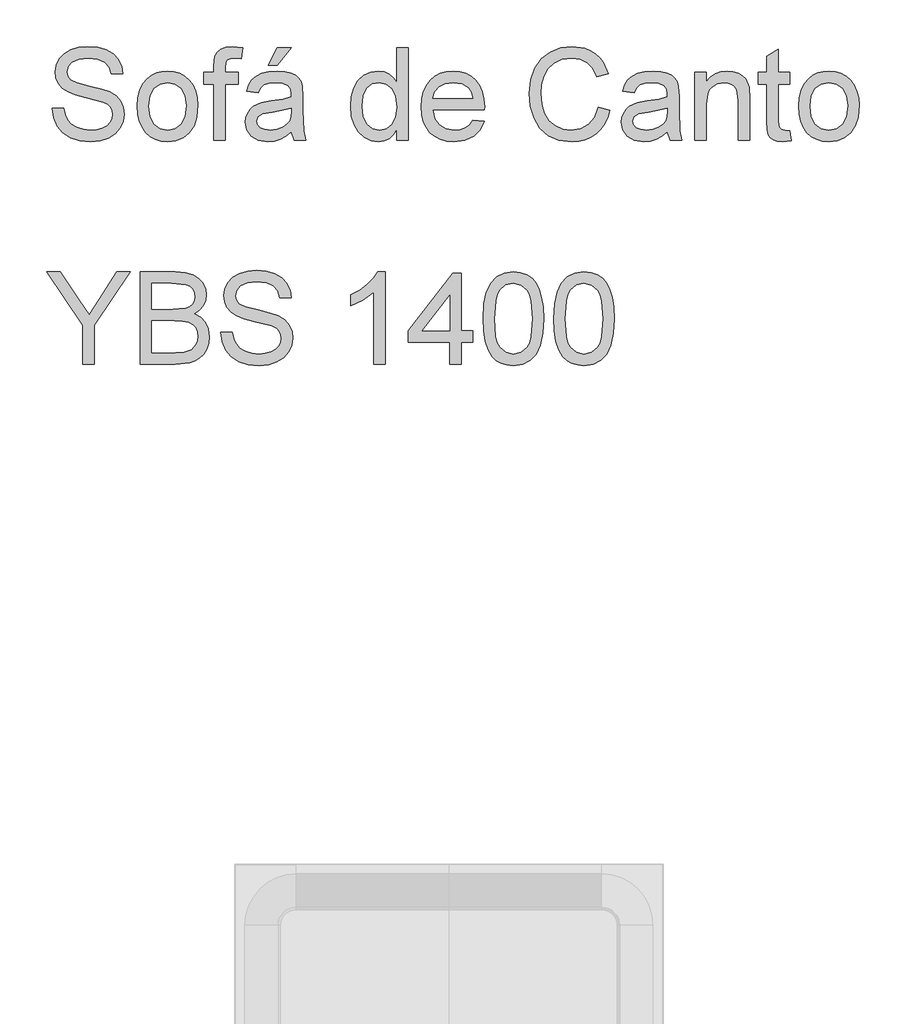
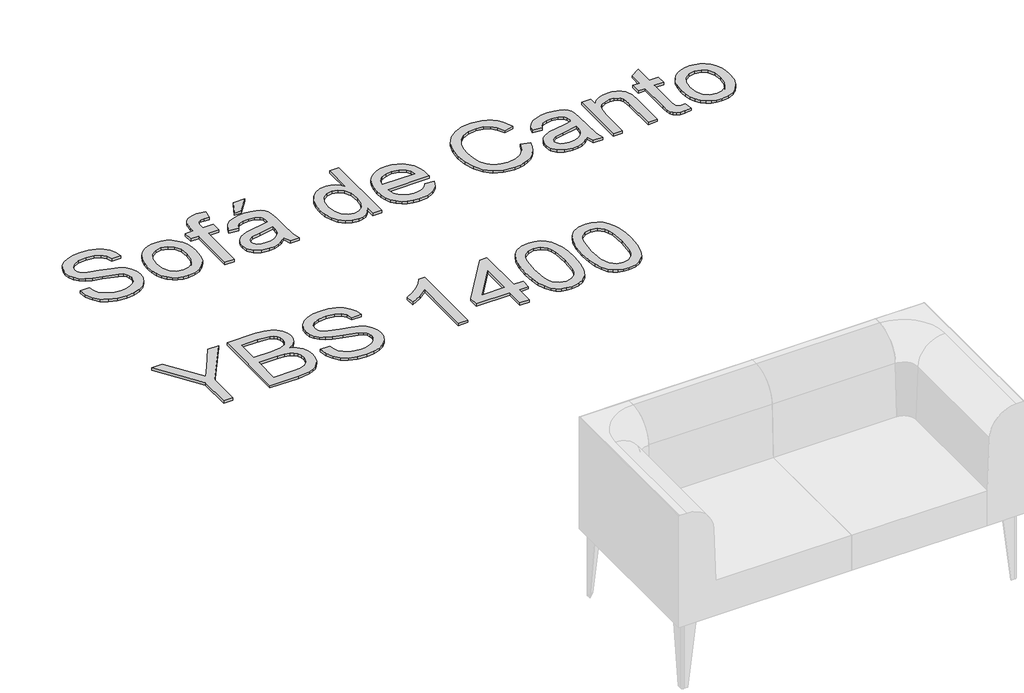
# One storey, part 20 of 26: 1 proxy.
"""IFC4 building model written with IfcOpenShell, lengths in millimetres."""

from ifc_helpers import new_model, si_unit, origin, origin_with_axes, place, context, project, spatial, polyline, outline, extrude, element, save

model = new_model("IFC4")

# Units and contexts
model_context = context("Model", 3, world=origin())
ifc_project = project(units=[si_unit("LENGTHUNIT", "METRE", prefix="MILLI")], contexts=[model_context])

# Site, building, storey
site = spatial("IfcSite", under=ifc_project)
building = spatial("IfcBuilding", under=site)
storey = spatial("IfcBuildingStorey", under=building, Name="Marelli - Linha YOUNG - Planta Baixa", Elevation=0.0)

# Proxy
placement = place(None, origin())
element("IfcBuildingElementProxy", 1, Name="300mm Arial", ObjectType="300mm Arial", at=placement, inside=storey, context=model_context, shape_type="SweptSolid", body=[
    extrude(outline(polyline([(34585.7785887, 188.9537033), (34623.449705, 188.9537033), (34627.7723184, 168.0488089), (34635.5898108, 151.2457988), (34647.7850989, 137.9100765), (34665.2410996, 127.4070455), (34686.5782553, 120.5920316), (34710.4170086, 118.3203602), (34731.4046764, 120.0402086), (34749.7803821, 125.1997535), (34764.6704059, 133.3667338), (34775.201028, 144.1088881), (34781.4642189, 156.442132), (34783.5519493, 169.3823812), (34781.9884508, 181.9915366), (34777.2979553, 192.8900407), (34767.7698117, 202.1882581), (34751.6933685, 209.9965534), (34696.842163, 224.3807394), (34660.8357127, 233.8996861), (34637.7971028, 242.9587802), (34619.0443181, 255.6323149), (34605.754581, 270.9913882), (34597.835921, 288.7049063), (34595.1963677, 308.4417753), (34598.4613204, 330.505498), (34608.2561786, 351.0792986), (34624.3234247, 368.5169052), (34646.4055415, 381.1720458), (34672.9114392, 388.8699765), (34702.2500283, 391.4359535), (34734.0350327, 388.7504149), (34761.8469115, 380.6937992), (34784.6923834, 367.4316533), (34801.578167, 349.129524), (34812.265139, 326.9278456), (34816.514176, 301.9670522), (34778.8430597, 301.9670522), (34771.9268782, 324.4446421), (34757.505904, 340.6682381), (34734.9731318, 350.4906874), (34703.7215563, 353.7648371), (34671.7342168, 350.5274756), (34649.7900558, 340.8153909), (34637.098127, 326.5231754), (34632.867484, 309.5454213), (34635.8657223, 295.0692648), (34644.8604371, 283.4257997), (34666.1240164, 273.0147392), (34706.3703067, 262.3829495), (34747.9041839, 252.2845888), (34773.0305242, 243.473815), (34794.5056357, 229.8069989), (34809.4876299, 212.9396094), (34818.2892067, 193.0555876), (34821.2230656, 170.3388744), (34817.8477483, 147.1163234), (34807.7217963, 125.2733299), (34791.2590771, 106.47456), (34768.8734577, 92.3846796), (34741.9536927, 83.5831028), (34711.8885366, 80.6492439), (34674.9807754, 83.8130291), (34644.6029197, 93.3043846), (34620.4054814, 109.1600986), (34602.0389728, 131.4169593), (34590.2483549, 158.5298623), (34585.7785887, 188.9537033)])), origin_with_axes(), (0.0, 0.0, 1.0), 10.0),
    extrude(outline(polyline([(34863.6030714, 196.0170376), (34865.640218, 224.6796436), (34871.7516576, 249.378321), (34881.9373903, 270.11307), (34896.1974162, 286.8838904), (34910.554011, 297.6030521), (34926.400528, 305.2595961), (34943.736967, 309.8535225), (34962.5633281, 311.3848313), (34983.3463616, 309.5201294), (35002.1382337, 303.9260239), (35018.9389446, 294.6025145), (35033.7484942, 281.5496015), (35045.835717, 265.2087431), (35054.4694476, 246.0213978), (35059.6496859, 223.9875656), (35061.376432, 199.1072464), (35058.3230115, 161.049854), (35049.1627498, 132.0791469), (35034.1623614, 110.3833062), (35013.5885608, 94.1505132), (34989.1519993, 84.0245612), (34962.5633281, 80.6492439), (34941.476792, 82.507048), (34922.5101759, 88.0804602), (34905.6634798, 97.3694806), (34890.9367037, 110.3741091), (34878.9782395, 126.8736166), (34870.4364795, 146.6472739), (34865.3114234, 169.6950809), (34863.6030714, 196.0170376)]), holes=[polyline([(34901.2741877, 196.090614), (34905.6335894, 161.9971501), (34918.7117943, 137.7077414), (34938.393481, 123.1672055), (34962.5633281, 118.3203602), (34986.6228106, 123.1947967), (35006.2677091, 137.818106), (35019.3459141, 162.4294115), (35023.7053157, 197.2678364), (35019.3183229, 230.3680189), (35006.1573445, 254.3263339), (34986.4848548, 268.8668697), (34962.5633281, 273.713715), (34938.393481, 268.8852638), (34918.7117943, 254.3999103), (34905.6335894, 230.1656838), (34901.2741877, 196.090614)])]), origin_with_axes(), (0.0, 0.0, 1.0), 10.0),
    extrude(outline(polyline([(35113.1742169, 85.3581335), (35113.1742169, 269.0048255), (35080.2119902, 269.0048255), (35080.2119902, 306.6759418), (35113.1742169, 306.6759418), (35113.1742169, 328.9695907), (35117.1473425, 360.3867131), (35124.7257116, 372.913095), (35136.424359, 382.8275148), (35152.7951078, 389.2838438), (35174.3897809, 391.4359535), (35208.7499593, 387.3156751), (35203.2317294, 351.9990036), (35181.5266916, 353.7648371), (35167.206885, 352.2013387), (35157.798303, 347.5108432), (35152.5835757, 338.5529166), (35150.8453332, 324.1871247), (35150.8453332, 306.6759418), (35193.2253391, 306.6759418), (35193.2253391, 269.0048255), (35150.8453332, 269.0048255), (35150.8453332, 85.3581335), (35113.1742169, 85.3581335)])), origin_with_axes(), (0.0, 0.0, 1.0), 10.0),
    extrude(outline(polyline([(35367.454252, 113.6114707), (35349.4556254, 98.178821), (35330.9235699, 88.0804602), (35311.4350212, 82.507048), (35290.566915, 80.6492439), (35259.0854133, 85.1190102), (35235.8628623, 98.5283089), (35221.5430557, 118.8905773), (35216.7697868, 144.2192527), (35218.5724086, 159.8358434), (35223.9802739, 174.0176943), (35232.3219981, 186.1578001), (35242.9261966, 195.6491556), (35269.3033357, 208.0099907), (35301.8976805, 213.6753734), (35340.4149254, 219.6350617), (35367.2335228, 226.6248196), (35367.454252, 235.0125291), (35364.8606839, 251.8247363), (35357.0799797, 262.8244079), (35339.6791614, 270.9913882), (35315.4357379, 273.713715), (35292.9949362, 271.9018962), (35277.3231632, 266.4664397), (35266.6361912, 256.4140642), (35259.1497926, 240.7514882), (35221.4786763, 245.4603778), (35228.0177788, 266.0617695), (35237.7758487, 282.2485773), (35251.663394, 294.6278064), (35270.5909227, 303.8064622), (35293.7398972, 309.490239), (35320.2917802, 311.3848313), (35345.7584113, 309.7109682), (35365.9459358, 304.689379), (35381.1670534, 297.138601), (35391.7344637, 287.8771718), (35398.7426157, 276.4268447), (35403.2859583, 262.3093731), (35405.1253683, 229.3471464), (35405.1253683, 182.4789802), (35407.0383547, 117.0327733), (35414.5431474, 85.3581335), (35376.8720311, 85.3581335), (35367.454252, 113.6114707)]), holes=[polyline([(35367.454252, 188.9537033), (35306.6801464, 177.4022087), (35274.2697426, 171.2953675), (35259.591251, 161.3625537), (35254.4409031, 146.8680031), (35257.2460033, 135.6659963), (35265.6613039, 126.4873405), (35279.502864, 120.3621053), (35298.5867425, 118.3203602), (35318.8202522, 120.5736375), (35336.6993172, 127.3334691), (35351.1938678, 137.2938741), (35361.2738345, 149.1488714), (35365.7436007, 161.3625537), (35367.2335228, 178.2851254), (35367.454252, 188.9537033)])]), origin_with_axes(), (0.0, 0.0, 1.0), 10.0),
    extrude(outline(polyline([(35292.1120194, 330.2203895), (35320.3653566, 386.7270639), (35367.454252, 386.7270639), (35320.3653566, 330.2203895), (35292.1120194, 330.2203895)])), origin_with_axes(), (0.0, 0.0, 1.0), 10.0),
    extrude(outline(polyline([(35711.2031883, 85.3581335), (35711.2031883, 120.8955342), (35699.9322037, 103.2877822), (35686.2791831, 90.7108165), (35670.2441267, 83.1646371), (35651.8270343, 80.6492439), (35627.4732462, 84.2912757), (35605.1795973, 95.2173709), (35586.3072509, 112.6641746), (35572.2173705, 135.8683314), (35563.4433849, 163.8917424), (35560.5187231, 195.7963084), (35563.2134587, 227.3054013), (35571.2976655, 255.7610736), (35584.7621466, 279.5446446), (35603.5977047, 297.0374335), (35626.3787973, 307.7979819), (35651.6798815, 311.3848313), (35670.1107694, 308.8188544), (35686.4079418, 301.1209236), (35700.2219107, 289.3211086), (35711.2031883, 274.449479), (35711.2031883, 386.7270639), (35748.8743046, 386.7270639), (35748.8743046, 85.3581335), (35711.2031883, 85.3581335)]), holes=[polyline([(35598.1898394, 195.9434612), (35602.4388764, 161.8683914), (35615.1859876, 137.634165), (35633.708846, 123.1488114), (35655.285125, 118.3203602), (35676.852207, 122.9280822), (35694.9060159, 136.7512482), (35707.1288952, 160.0473755), (35711.2031883, 193.0739817), (35707.0553188, 229.1815995), (35694.6117103, 254.2159693), (35676.0980489, 268.8392786), (35653.7400207, 273.713715), (35631.9430124, 269.0324166), (35614.0823416, 254.9885214), (35602.1629649, 230.8646596), (35598.1898394, 195.9434612)])]), origin_with_axes(), (0.0, 0.0, 1.0), 10.0),
    extrude(outline(polyline([(35960.3328754, 151.282587), (35997.2682277, 146.5736975), (35983.9600966, 118.7434245), (35962.7241084, 97.9396977), (35934.0385098, 84.9718574), (35898.3815474, 80.6492439), (35875.0072452, 82.5139458), (35854.1805257, 88.1080514), (35835.9013891, 97.4315607), (35820.1698353, 110.4844737), (35807.5192932, 126.903507), (35798.4831917, 146.3253771), (35793.0615307, 168.750084), (35791.2543104, 194.1776276), (35793.0799248, 220.4673947), (35798.5567681, 243.6393619), (35807.6848401, 263.6935292), (35820.4641409, 280.6298965), (35836.154308, 294.0851805), (35854.0149788, 303.6960976), (35874.0461535, 309.4626479), (35896.2478319, 311.3848313), (35917.7344397, 309.4672464), (35937.1655068, 303.7144917), (35954.5410333, 294.1265672), (35969.8610191, 280.7034729), (35982.3667077, 263.8038938), (35991.2993424, 243.7865147), (35996.6589232, 220.6513357), (35998.4454501, 194.3983568), (35998.2247209, 184.2448138), (35828.9254268, 184.2448138), (35835.4461351, 156.0466588), (35850.5936763, 135.3165084), (35872.4550638, 122.5693973), (35899.1173114, 118.3203602), (35919.1668802, 120.2885289), (35936.0526637, 126.1930349), (35949.7746622, 136.4017603), (35960.3328754, 151.282587)]), holes=[polyline([(35828.9254268, 221.9159301), (35960.7743338, 221.9159301), (35955.6791682, 241.818346), (35945.691172, 256.0553792), (35923.7286169, 269.2991311), (35896.1006791, 273.713715), (35870.7076244, 270.1912449), (35849.7107595, 259.6238346), (35835.1150413, 243.1519182), (35828.9254268, 221.9159301)])]), origin_with_axes(), (0.0, 0.0, 1.0), 10.0),
    extrude(outline(polyline([(36370.4477237, 192.4853705), (36408.11884, 182.7732858), (36400.664631, 159.3461005), (36390.7364157, 138.8757667), (36378.3341939, 121.3622845), (36363.4579657, 106.8056538), (36346.4434235, 95.3622245), (36327.6262594, 87.1883464), (36307.0064736, 82.2840195), (36284.584066, 80.6492439), (36240.888882, 85.5972568), (36206.1884128, 100.4412953), (36179.5905446, 124.6663247), (36160.2031634, 157.7573101), (36148.3665602, 196.6608311), (36144.4210258, 238.3234671), (36148.881595, 282.2669714), (36162.2633026, 320.2139992), (36183.8671728, 350.9597369), (36212.9942297, 373.2993711), (36247.5383491, 386.9018079), (36285.3934064, 391.4359535), (36326.6973574, 385.5682356), (36344.6660936, 378.2335884), (36360.8460036, 367.9650822), (36374.9703729, 355.03403), (36386.7724872, 339.7117449), (36403.4099504, 301.8934758), (36365.7388341, 292.9171551), (36352.6790233, 320.3887431), (36334.8367465, 339.2334983), (36311.9912746, 350.1320024), (36283.9218784, 353.7648371), (36251.5666569, 349.7365293), (36224.9871828, 337.6516058), (36204.8180524, 318.7792594), (36191.6938622, 294.3886831), (36184.4925721, 266.8159276), (36182.0921421, 238.3970435), (36184.9340305, 203.5954067), (36193.4596958, 173.5026595), (36207.9910346, 149.2684331), (36228.8499437, 132.0423587), (36253.8567223, 121.7508598), (36280.8316696, 118.3203602), (36312.2763832, 122.9924616), (36338.4787783, 137.0087656), (36358.2616326, 160.2221195), (36370.4477237, 192.4853705)])), origin_with_axes(), (0.0, 0.0, 1.0), 10.0),
    extrude(outline(polyline([(36596.4744215, 113.6114707), (36578.4757949, 98.178821), (36559.9437394, 88.0804602), (36540.4551907, 82.507048), (36519.5870845, 80.6492439), (36488.1055828, 85.1190102), (36464.8830318, 98.5283089), (36450.5632252, 118.8905773), (36445.7899563, 144.2192527), (36447.592578, 159.8358434), (36453.0004434, 174.0176943), (36461.3421676, 186.1578001), (36471.9463661, 195.6491556), (36498.3235052, 208.0099907), (36530.91785, 213.6753734), (36569.4350948, 219.6350617), (36596.2536923, 226.6248196), (36596.4744215, 235.0125291), (36593.8808534, 251.8247363), (36586.1001492, 262.8244079), (36568.6993309, 270.9913882), (36544.4559074, 273.713715), (36522.0151057, 271.9018962), (36506.3433327, 266.4664397), (36495.6563607, 256.4140642), (36488.1699621, 240.7514882), (36450.4988458, 245.4603778), (36457.0379483, 266.0617695), (36466.7960182, 282.2485773), (36480.6835635, 294.6278064), (36499.6110922, 303.8064622), (36522.7600667, 309.490239), (36549.3119497, 311.3848313), (36574.7785808, 309.7109682), (36594.9661053, 304.689379), (36610.1872229, 297.138601), (36620.7546332, 287.8771718), (36627.7627852, 276.4268447), (36632.3061278, 262.3093731), (36634.1455378, 229.3471464), (36634.1455378, 182.4789802), (36636.0585242, 117.0327733), (36643.5633169, 85.3581335), (36605.8922006, 85.3581335), (36596.4744215, 113.6114707)]), holes=[polyline([(36596.4744215, 188.9537033), (36535.7003159, 177.4022087), (36503.2899121, 171.2953675), (36488.6114205, 161.3625537), (36483.4610726, 146.8680031), (36486.2661728, 135.6659963), (36494.6814734, 126.4873405), (36508.5230335, 120.3621053), (36527.606912, 118.3203602), (36547.8404217, 120.5736375), (36565.7194867, 127.3334691), (36580.2140373, 137.2938741), (36590.294004, 149.1488714), (36594.7637702, 161.3625537), (36596.2536923, 178.2851254), (36596.4744215, 188.9537033)])]), origin_with_axes(), (0.0, 0.0, 1.0), 10.0),
    extrude(outline(polyline([(36685.9433227, 85.3581335), (36685.9433227, 306.6759418), (36723.614439, 306.6759418), (36723.614439, 275.7738542), (36736.701841, 291.3536567), (36752.4195992, 302.482087), (36770.7677138, 309.1591452), (36791.7461845, 311.3848313), (36810.3150282, 309.5914066), (36827.3203735, 304.2111324), (36841.5022244, 295.9153934), (36851.6005851, 285.3755742), (36862.8945624, 257.67406), (36864.8811252, 221.2537425), (36864.8811252, 85.3581335), (36827.2100089, 85.3581335), (36827.2100089, 216.176971), (36822.8690013, 249.5070797), (36816.8633278, 259.4306965), (36807.5283221, 267.1286273), (36795.5629602, 272.0674431), (36781.6662179, 273.713715), (36759.6024952, 270.0165009), (36740.7945282, 258.9248588), (36733.2782392, 249.8703632), (36727.9094613, 237.4957326), (36723.614439, 202.7860663), (36723.614439, 85.3581335), (36685.9433227, 85.3581335)])), origin_with_axes(), (0.0, 0.0, 1.0), 10.0),
    extrude(outline(polyline([(36996.7300322, 116.7752559), (37001.4389218, 84.2544875), (36973.259161, 80.6492439), (36955.1777609, 82.2127424), (36941.6948858, 86.9032378), (36932.1667421, 94.1321191), (36925.9495364, 103.3107748), (36922.5282338, 119.0745183), (36921.3877996, 146.0586627), (36921.3877996, 269.0048255), (36893.1344624, 269.0048255), (36893.1344624, 306.6759418), (36921.3877996, 306.6759418), (36921.3877996, 360.4602895), (36959.0589159, 382.6067856), (36959.0589159, 306.6759418), (36996.7300322, 306.6759418), (36996.7300322, 269.0048255), (36959.0589159, 269.0048255), (36959.0589159, 147.1623087), (36961.0454787, 127.7381393), (36967.4834136, 120.858746), (36980.3224953, 118.3203602), (36996.7300322, 116.7752559)])), origin_with_axes(), (0.0, 0.0, 1.0), 10.0),
    extrude(outline(polyline([(37024.9833695, 196.0170376), (37027.020516, 224.6796436), (37033.1319557, 249.378321), (37043.3176884, 270.11307), (37057.5777142, 286.8838904), (37071.9343091, 297.6030521), (37087.780826, 305.2595961), (37105.1172651, 309.8535225), (37123.9436262, 311.3848313), (37144.7266596, 309.5201294), (37163.5185318, 303.9260239), (37180.3192427, 294.6025145), (37195.1287922, 281.5496015), (37207.216015, 265.2087431), (37215.8497456, 246.0213978), (37221.029984, 223.9875656), (37222.7567301, 199.1072464), (37219.7033095, 161.049854), (37210.5430478, 132.0791469), (37195.5426595, 110.3833062), (37174.9688589, 94.1505132), (37150.5322974, 84.0245612), (37123.9436262, 80.6492439), (37102.8570901, 82.507048), (37083.890474, 88.0804602), (37067.0437778, 97.3694806), (37052.3170017, 110.3741091), (37040.3585376, 126.8736166), (37031.8167775, 146.6472739), (37026.6917215, 169.6950809), (37024.9833695, 196.0170376)]), holes=[polyline([(37062.6544858, 196.090614), (37067.0138874, 161.9971501), (37080.0920923, 137.7077414), (37099.7737791, 123.1672055), (37123.9436262, 118.3203602), (37148.0031087, 123.1947967), (37167.6480072, 137.818106), (37180.7262121, 162.4294115), (37185.0856138, 197.2678364), (37180.698621, 230.3680189), (37167.5376426, 254.3263339), (37147.8651529, 268.8668697), (37123.9436262, 273.713715), (37099.7737791, 268.8852638), (37080.0920923, 254.3999103), (37067.0138874, 230.1656838), (37062.6544858, 196.090614)])]), origin_with_axes(), (0.0, 0.0, 1.0), 10.0),
    extrude(outline(polyline([(34684.665269, -646.4907736), (34684.665269, -518.8357213), (34566.9430305, -345.1218432), (34611.3831755, -345.1218432), (34674.2174203, -437.9016823), (34706.3703067, -485.2113069), (34738.5967694, -434.517168), (34795.6184787, -345.1218432), (34840.0586237, -345.1218432), (34722.3363853, -518.8357213), (34722.3363853, -646.4907736), (34684.665269, -646.4907736)])), origin_with_axes(), (0.0, 0.0, 1.0), 10.0),
    extrude(outline(polyline([(34873.0208505, -646.4907736), (34873.0208505, -345.1218432), (34988.0207622, -345.1218432), (35019.6494167, -347.3383322), (35044.3434956, -353.9877992), (35063.2710243, -365.2357912), (35077.600028, -381.2478551), (35086.6223339, -400.0834132), (35089.6297692, -419.8018882), (35087.1005805, -437.9476676), (35079.5130144, -455.0081951), (35066.8118885, -469.9350071), (35048.9420206, -481.6796398), (35070.2883734, -492.8264642), (35086.0613139, -509.7858242), (35095.8009897, -531.4356796), (35099.0475483, -556.6539904), (35096.8310593, -577.6692494), (35090.1815922, -597.1577981), (35080.2579754, -613.7308819), (35068.2190371, -625.9997465), (35053.4761662, -634.8840967), (35035.4407514, -641.3036375), (34987.1378454, -646.4907736), (34873.0208505, -646.4907736)]), holes=[polyline([(34910.6919668, -467.5529711), (34979.4858999, -467.5529711), (35019.6586138, -464.3156096), (35033.720903, -458.7330003), (35043.8284608, -450.372882), (35049.9261049, -439.3640133), (35051.9586529, -425.8351529), (35050.0640607, -412.7017657), (35044.3802838, -401.2606356), (35035.1648399, -392.3303002), (35022.6752461, -386.7292968), (34974.2619756, -382.7929595), (34910.6919668, -382.7929595), (34910.6919668, -467.5529711)]), polyline([(34910.6919668, -608.8196573), (34987.9471858, -608.8196573), (35015.9062174, -607.3481293), (35039.5610297, -599.1443608), (35055.2328027, -582.40573), (35059.8405247, -570.5783239), (35061.376432, -557.0218724), (35059.5738102, -541.276523), (35054.1659449, -527.7384656), (35044.7205747, -517.1526611), (35030.8054382, -510.2640708), (35011.0961603, -506.4840833), (34984.2683658, -505.2240875), (34910.6919668, -505.2240875), (34910.6919668, -608.8196573)])]), origin_with_axes(), (0.0, 0.0, 1.0), 10.0),
    extrude(outline(polyline([(35136.7186646, -542.8952038), (35174.3897809, -542.8952038), (35178.7123944, -563.8000981), (35186.5298868, -580.6031083), (35198.7251749, -593.9388306), (35216.1811756, -604.4418616), (35237.5183313, -611.2568755), (35261.3570846, -613.5285468), (35282.3447524, -611.8086985), (35300.7204581, -606.6491535), (35315.6104818, -598.4821732), (35326.1411039, -587.740019), (35332.4042949, -575.4067751), (35334.4920252, -562.4665259), (35332.9285268, -549.8573705), (35328.2380313, -538.9588664), (35318.7098876, -529.660649), (35302.6334445, -521.8523536), (35247.782239, -507.4681676), (35211.7757887, -497.949221), (35188.7371787, -488.8901269), (35169.984394, -476.2165921), (35156.694657, -460.8575188), (35148.775997, -443.1440008), (35146.1364437, -423.4071317), (35149.4013964, -401.3434091), (35159.1962545, -380.7696085), (35175.2635007, -363.3320019), (35197.3456174, -350.6768613), (35223.8515152, -342.9789305), (35253.1901043, -340.4129536), (35284.9751087, -343.0984922), (35312.7869875, -351.1551079), (35335.6324594, -364.4172538), (35352.518243, -382.7193831), (35363.205215, -404.9210615), (35367.454252, -429.8818548), (35329.7831357, -429.8818548), (35322.8669542, -407.4042649), (35308.44598, -391.180669), (35285.9132078, -381.3582197), (35254.6616323, -378.0840699), (35222.6742928, -381.3214315), (35200.7301318, -391.0335162), (35188.038203, -405.3257317), (35183.80756, -422.3034857), (35186.8057983, -436.7796423), (35195.8005131, -448.4231074), (35217.0640924, -458.8341679), (35257.3103826, -469.4659575), (35298.8442599, -479.5643183), (35323.9706002, -488.3750921), (35345.4457116, -502.0419082), (35360.4277059, -518.9092977), (35369.2292826, -538.7933195), (35372.1631415, -561.5100327), (35368.7878242, -584.7325837), (35358.6618723, -606.5755771), (35342.199153, -625.3743471), (35319.8135336, -639.4642275), (35292.8937686, -648.2658042), (35262.8286126, -651.1996631), (35225.9208514, -648.035878), (35195.5429957, -638.5445225), (35171.3455574, -622.6888085), (35152.9790488, -600.4319478), (35141.1884309, -573.3190448), (35136.7186646, -542.8952038)])), origin_with_axes(), (0.0, 0.0, 1.0), 10.0),
    extrude(outline(polyline([(35673.532072, -646.4907736), (35635.8609557, -646.4907736), (35635.8609557, -411.6349079), (35600.1764022, -437.0555537), (35560.5187231, -456.0750529), (35560.5187231, -420.4640758), (35590.1056325, -404.3692385), (35615.7378105, -385.2209806), (35635.9437291, -364.8587122), (35649.2518603, -345.1218432), (35673.532072, -345.1218432), (35673.532072, -646.4907736)])), origin_with_axes(), (0.0, 0.0, 1.0), 10.0),
    extrude(outline(polyline([(35885.4321012, -646.4907736), (35885.4321012, -575.8574305), (35748.8743046, -575.8574305), (35748.8743046, -538.1863142), (35894.8498803, -349.8307327), (35923.1032175, -349.8307327), (35923.1032175, -538.1863142), (35960.7743338, -538.1863142), (35960.7743338, -575.8574305), (35923.1032175, -575.8574305), (35923.1032175, -646.4907736), (35885.4321012, -646.4907736)]), holes=[polyline([(35885.4321012, -538.1863142), (35885.4321012, -421.7884509), (35795.227436, -538.1863142), (35885.4321012, -538.1863142)])]), origin_with_axes(), (0.0, 0.0, 1.0), 10.0),
    extrude(outline(polyline([(35993.7365606, -498.2343295), (35996.5048726, -449.9958029), (36004.8098086, -411.5245433), (36018.5685953, -382.2319394), (36037.698459, -361.5293801), (36062.3373556, -349.2237274), (36092.6232409, -345.1218432), (36115.8365948, -347.5498643), (36136.6219275, -354.8339278), (36154.0043518, -366.6889251), (36167.0089803, -382.8297477), (36176.8314296, -403.1184397), (36184.6673161, -427.4170455), (36189.7992699, -458.2731478), (36191.5099212, -498.2343295), (36188.7692003, -546.1969447), (36180.5470377, -584.5762338), (36166.8710246, -613.8964288), (36147.768752, -634.6817616), (36123.074673, -647.0701877), (36092.6232409, -651.1996631), (36071.8746964, -649.4062384), (36053.4805966, -644.0259642), (36037.4409416, -635.0588406), (36023.7557314, -622.5048675), (36010.6223442, -599.8111469), (36001.2413533, -571.5348171), (35995.6127588, -537.675878), (35993.7365606, -498.2343295)]), holes=[polyline([(36031.4076769, -498.1607531), (36035.8222608, -557.4173455), (36041.3404908, -577.6853442), (36049.0660127, -591.7131445), (36068.7844876, -608.0746963), (36092.6232409, -613.5285468), (36116.4619942, -608.0563022), (36136.1804691, -591.6395681), (36143.905991, -577.5887752), (36149.424221, -557.325375), (36153.8388049, -498.1607531), (36149.5713737, -440.237733), (36144.2370848, -420.0364129), (36136.7690803, -405.6752196), (36117.0873936, -388.5135245), (36092.1817825, -382.7929595), (36068.6005466, -387.8329428), (36049.6546239, -402.9528928), (36041.6715846, -418.5878776), (36035.9694136, -439.6675159), (36031.4076769, -498.1607531)])]), origin_with_axes(), (0.0, 0.0, 1.0), 10.0),
    extrude(outline(polyline([(36224.472148, -498.2343295), (36227.24046, -449.9958029), (36235.545396, -411.5245433), (36249.3041826, -382.2319394), (36268.4340464, -361.5293801), (36293.072943, -349.2237274), (36323.3588283, -345.1218432), (36346.5721822, -347.5498643), (36367.3575149, -354.8339278), (36384.7399392, -366.6889251), (36397.7445677, -382.8297477), (36407.567017, -403.1184397), (36415.4029035, -427.4170455), (36420.5348573, -458.2731478), (36422.2455086, -498.2343295), (36419.5047877, -546.1969447), (36411.2826251, -584.5762338), (36397.6066119, -613.8964288), (36378.5043393, -634.6817616), (36353.8102604, -647.0701877), (36323.3588283, -651.1996631), (36302.6102837, -649.4062384), (36284.216184, -644.0259642), (36268.176529, -635.0588406), (36254.4913188, -622.5048675), (36241.3579315, -599.8111469), (36231.9769407, -571.5348171), (36226.3483461, -537.675878), (36224.472148, -498.2343295)]), holes=[polyline([(36262.1432643, -498.1607531), (36266.5578482, -557.4173455), (36272.0760781, -577.6853442), (36279.8016, -591.7131445), (36299.520075, -608.0746963), (36323.3588283, -613.5285468), (36347.1975816, -608.0563022), (36366.9160565, -591.6395681), (36374.6415784, -577.5887752), (36380.1598083, -557.325375), (36384.5743923, -498.1607531), (36380.3069611, -440.237733), (36374.9726722, -420.0364129), (36367.5046677, -405.6752196), (36347.822981, -388.5135245), (36322.9173699, -382.7929595), (36299.336134, -387.8329428), (36280.3902112, -402.9528928), (36272.4071719, -418.5878776), (36266.705001, -439.6675159), (36262.1432643, -498.1607531)])]), origin_with_axes(), (0.0, 0.0, 1.0), 10.0),
])

save(model, "model.ifc")
